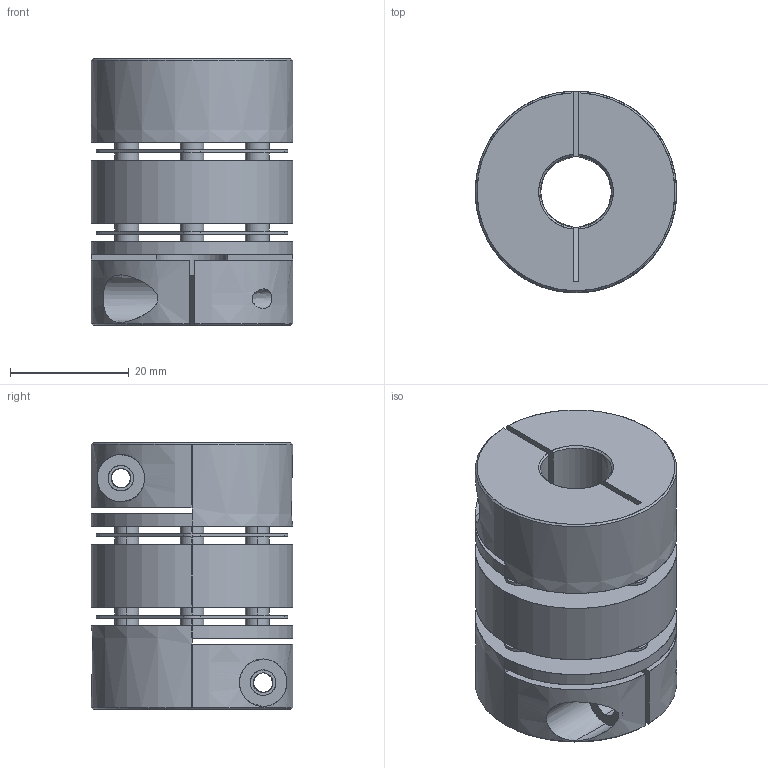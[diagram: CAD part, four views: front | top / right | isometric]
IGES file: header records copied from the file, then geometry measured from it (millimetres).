
Start section: SolidWorks IGES file using analytic representation for surfaces
Bounding box: 34 x 34 x 45 mm (x, y, z)
Surface area: 14706.2 mm2 (no closed solid volume)
Topology: 0 solids, 0 shells, 130 faces, 3060 edges, 3060 vertices
Faces by surface type: revolution 90, bspline 40
